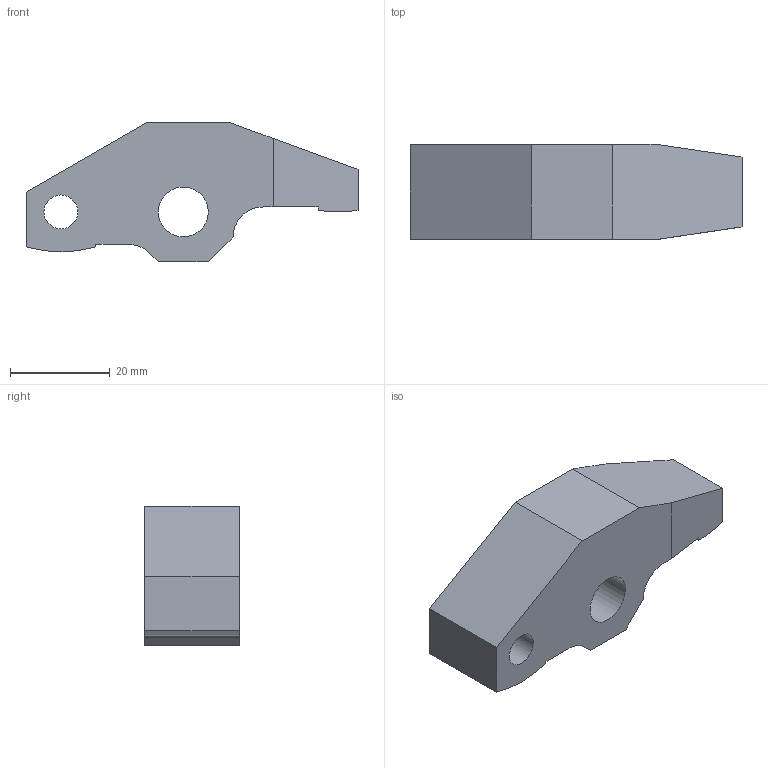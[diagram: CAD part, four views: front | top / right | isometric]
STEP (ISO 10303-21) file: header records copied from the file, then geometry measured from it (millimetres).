
FILE_DESCRIPTION( ( '' ), '1' );
FILE_NAME( 'W:/Catalogue/JLF5H/JLF5H_OPTION/JLF5H42_ClampArm.stp', '2008-05-26T02:49:40', ( '機械事業部産業機器グループ' ), ( '豊和工業株式会社' ), 'XStep 1.0', ' ', ' ' );
FILE_SCHEMA( ( 'CONFIG_CONTROL_DESIGN' ) );
Length unit declared in the file: millimetre
Products named in the file (1): 1
Bounding box: 66.5 x 19 x 28 mm (x, y, z)
Volume: 20697.9 mm3; surface area: 6249.4 mm2
Topology: 1 solids, 1 shells, 22 faces, 60 edges, 40 vertices
Faces by surface type: plane 16, cylinder 6
Full cylindrical faces by diameter (mm): 6.8 x1, 10 x1
Entity records: 738 total; most frequent: CARTESIAN_POINT 121, DIRECTION 116, ORIENTED_EDGE 116, EDGE_CURVE 58, LINE 46, VECTOR 46, VERTEX_POINT 40, AXIS2_PLACEMENT_3D 35
